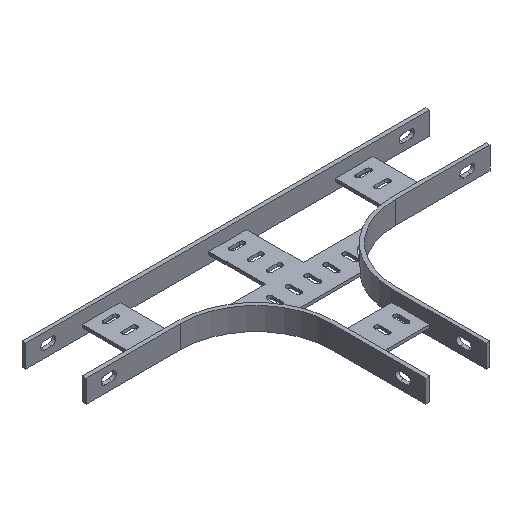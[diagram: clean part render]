
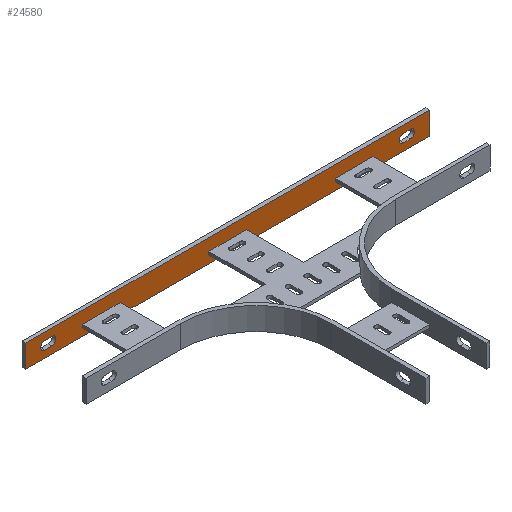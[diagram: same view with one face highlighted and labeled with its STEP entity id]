
A CAD part, isometric view. The second image highlights one B-rep face of the part: STEP entity #24580.
In plain terms, the highlighted planar face has unit normal (0, -1, 0).
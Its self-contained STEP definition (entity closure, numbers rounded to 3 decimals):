
#17660=CARTESIAN_POINT('',(0.,180.,-20.));
#17670=VERTEX_POINT('',#17660);
#17750=CARTESIAN_POINT('',(50.,180.,-20.));
#17760=VERTEX_POINT('',#17750);
#17790=CARTESIAN_POINT('',(0.,180.,-20.));
#17800=DIRECTION('',(-1.,0.,0.));
#17810=VECTOR('',#17800,1.);
#17820=LINE('',#17790,#17810);
#17830=EDGE_CURVE('',#17760,#17670,#17820,.T.);
#19050=CARTESIAN_POINT('',(0.,180.,-16.));
#19060=VERTEX_POINT('',#19050);
#19110=CARTESIAN_POINT('',(0.,180.,0.));
#19120=DIRECTION('',(0.,0.,1.));
#19130=VECTOR('',#19120,1.);
#19140=LINE('',#19110,#19130);
#19150=EDGE_CURVE('',#17670,#19060,#19140,.T.);
#19290=CARTESIAN_POINT('',(50.,180.,-16.));
#19300=VERTEX_POINT('',#19290);
#19350=CARTESIAN_POINT('',(0.,180.,-16.));
#19360=DIRECTION('',(1.,0.,0.));
#19370=VECTOR('',#19360,1.);
#19380=LINE('',#19350,#19370);
#19390=EDGE_CURVE('',#19060,#19300,#19380,.T.);
#20600=CARTESIAN_POINT('',(50.,180.,0.));
#20610=DIRECTION('',(0.,0.,-1.));
#20620=VECTOR('',#20610,1.);
#20630=LINE('',#20600,#20620);
#20640=EDGE_CURVE('',#19300,#17760,#20630,.T.);
#22730=CARTESIAN_POINT('',(125.,180.,0.));
#22740=DIRECTION('',(-0.,1.,0.));
#22750=DIRECTION('',(1.,0.,0.));
#22760=AXIS2_PLACEMENT_3D('',#22730,#22740,#22750);
#22770=PLANE('',#22760);
#22780=CARTESIAN_POINT('',(125.,180.,0.));
#22790=DIRECTION('',(-1.,0.,0.));
#22800=VECTOR('',#22790,1.);
#22810=LINE('',#22780,#22800);
#22820=CARTESIAN_POINT('',(125.,180.,0.));
#22830=VERTEX_POINT('',#22820);
#22840=CARTESIAN_POINT('',(-410.,180.,0.));
#22850=VERTEX_POINT('',#22840);
#22860=EDGE_CURVE('',#22830,#22850,#22810,.T.);
#22870=ORIENTED_EDGE('',*,*,#22860,.T.);
#22880=CARTESIAN_POINT('',(125.,180.,0.));
#22890=DIRECTION('',(0.,0.,-1.));
#22900=VECTOR('',#22890,1.);
#22910=LINE('',#22880,#22900);
#22920=CARTESIAN_POINT('',(125.,180.,-30.));
#22930=VERTEX_POINT('',#22920);
#22940=EDGE_CURVE('',#22830,#22930,#22910,.T.);
#22950=ORIENTED_EDGE('',*,*,#22940,.F.);
#22960=CARTESIAN_POINT('',(125.,180.,-30.));
#22970=DIRECTION('',(-1.,0.,0.));
#22980=VECTOR('',#22970,1.);
#22990=LINE('',#22960,#22980);
#23000=CARTESIAN_POINT('',(-410.,180.,-30.));
#23010=VERTEX_POINT('',#23000);
#23020=EDGE_CURVE('',#22930,#23010,#22990,.T.);
#23030=ORIENTED_EDGE('',*,*,#23020,.F.);
#23040=CARTESIAN_POINT('',(-410.,180.,0.));
#23050=DIRECTION('',(0.,0.,-1.));
#23060=VECTOR('',#23050,1.);
#23070=LINE('',#23040,#23060);
#23080=EDGE_CURVE('',#22850,#23010,#23070,.T.);
#23090=ORIENTED_EDGE('',*,*,#23080,.T.);
#23100=EDGE_LOOP('',(#23090,#23030,#22950,#22870));
#23110=FACE_OUTER_BOUND('',#23100,.T.);
#23120=CARTESIAN_POINT('',(-375.5,180.,-15.));
#23130=DIRECTION('',(0.,-1.,0.));
#23140=DIRECTION('',(-1.,0.,0.));
#23150=AXIS2_PLACEMENT_3D('',#23120,#23130,#23140);
#23160=CIRCLE('',#23150,5.5);
#23170=CARTESIAN_POINT('',(-375.5,180.,-20.5));
#23180=VERTEX_POINT('',#23170);
#23190=CARTESIAN_POINT('',(-375.5,180.,-9.5));
#23200=VERTEX_POINT('',#23190);
#23210=EDGE_CURVE('',#23180,#23200,#23160,.T.);
#23220=ORIENTED_EDGE('',*,*,#23210,.F.);
#23230=CARTESIAN_POINT('',(-210.754,180.,-9.5));
#23240=DIRECTION('',(1.,0.,0.));
#23250=VECTOR('',#23240,1.);
#23260=LINE('',#23230,#23250);
#23270=CARTESIAN_POINT('',(-384.5,180.,-9.5));
#23280=VERTEX_POINT('',#23270);
#23290=EDGE_CURVE('',#23280,#23200,#23260,.T.);
#23300=ORIENTED_EDGE('',*,*,#23290,.T.);
#23310=CARTESIAN_POINT('',(-384.5,180.,-15.));
#23320=DIRECTION('',(0.,1.,0.));
#23330=DIRECTION('',(-1.,0.,0.));
#23340=AXIS2_PLACEMENT_3D('',#23310,#23320,#23330);
#23350=CIRCLE('',#23340,5.5);
#23360=CARTESIAN_POINT('',(-384.5,180.,-20.5));
#23370=VERTEX_POINT('',#23360);
#23380=EDGE_CURVE('',#23370,#23280,#23350,.T.);
#23390=ORIENTED_EDGE('',*,*,#23380,.T.);
#23400=CARTESIAN_POINT('',(-210.754,180.,-20.5));
#23410=DIRECTION('',(-1.,0.,0.));
#23420=VECTOR('',#23410,1.);
#23430=LINE('',#23400,#23420);
#23440=EDGE_CURVE('',#23180,#23370,#23430,.T.);
#23450=ORIENTED_EDGE('',*,*,#23440,.T.);
#23460=EDGE_LOOP('',(#23450,#23390,#23300,#23220));
#23470=FACE_BOUND('',#23460,.T.);
#23480=CARTESIAN_POINT('',(99.5,180.,-15.));
#23490=DIRECTION('',(0.,1.,0.));
#23500=DIRECTION('',(1.,0.,0.));
#23510=AXIS2_PLACEMENT_3D('',#23480,#23490,#23500);
#23520=CIRCLE('',#23510,5.5);
#23530=CARTESIAN_POINT('',(99.5,180.,-9.5));
#23540=VERTEX_POINT('',#23530);
#23550=CARTESIAN_POINT('',(99.5,180.,-20.5));
#23560=VERTEX_POINT('',#23550);
#23570=EDGE_CURVE('',#23540,#23560,#23520,.T.);
#23580=ORIENTED_EDGE('',*,*,#23570,.T.);
#23590=CARTESIAN_POINT('',(-210.754,180.,-9.5));
#23600=DIRECTION('',(1.,0.,0.));
#23610=VECTOR('',#23600,1.);
#23620=LINE('',#23590,#23610);
#23630=CARTESIAN_POINT('',(90.5,180.,-9.5));
#23640=VERTEX_POINT('',#23630);
#23650=EDGE_CURVE('',#23640,#23540,#23620,.T.);
#23660=ORIENTED_EDGE('',*,*,#23650,.T.);
#23670=CARTESIAN_POINT('',(90.5,180.,-15.));
#23680=DIRECTION('',(0.,-1.,0.));
#23690=DIRECTION('',(1.,0.,0.));
#23700=AXIS2_PLACEMENT_3D('',#23670,#23680,#23690);
#23710=CIRCLE('',#23700,5.5);
#23720=CARTESIAN_POINT('',(90.5,180.,-20.5));
#23730=VERTEX_POINT('',#23720);
#23740=EDGE_CURVE('',#23640,#23730,#23710,.T.);
#23750=ORIENTED_EDGE('',*,*,#23740,.F.);
#23760=CARTESIAN_POINT('',(-210.754,180.,-20.5));
#23770=DIRECTION('',(-1.,0.,0.));
#23780=VECTOR('',#23770,1.);
#23790=LINE('',#23760,#23780);
#23800=EDGE_CURVE('',#23560,#23730,#23790,.T.);
#23810=ORIENTED_EDGE('',*,*,#23800,.T.);
#23820=EDGE_LOOP('',(#23810,#23750,#23660,#23580));
#23830=FACE_BOUND('',#23820,.T.);
#23840=CARTESIAN_POINT('',(0.,180.,-16.));
#23850=DIRECTION('',(1.,0.,0.));
#23860=VECTOR('',#23850,1.);
#23870=LINE('',#23840,#23860);
#23880=CARTESIAN_POINT('',(-167.5,180.,-16.));
#23890=VERTEX_POINT('',#23880);
#23900=CARTESIAN_POINT('',(-117.5,180.,-16.));
#23910=VERTEX_POINT('',#23900);
#23920=EDGE_CURVE('',#23890,#23910,#23870,.T.);
#23930=ORIENTED_EDGE('',*,*,#23920,.T.);
#23940=CARTESIAN_POINT('',(-167.5,180.,0.));
#23950=DIRECTION('',(0.,0.,1.));
#23960=VECTOR('',#23950,1.);
#23970=LINE('',#23940,#23960);
#23980=CARTESIAN_POINT('',(-167.5,180.,-20.));
#23990=VERTEX_POINT('',#23980);
#24000=EDGE_CURVE('',#23990,#23890,#23970,.T.);
#24010=ORIENTED_EDGE('',*,*,#24000,.T.);
#24020=CARTESIAN_POINT('',(0.,180.,-20.));
#24030=DIRECTION('',(-1.,0.,0.));
#24040=VECTOR('',#24030,1.);
#24050=LINE('',#24020,#24040);
#24060=CARTESIAN_POINT('',(-117.5,180.,-20.));
#24070=VERTEX_POINT('',#24060);
#24080=EDGE_CURVE('',#24070,#23990,#24050,.T.);
#24090=ORIENTED_EDGE('',*,*,#24080,.T.);
#24100=CARTESIAN_POINT('',(-117.5,180.,0.));
#24110=DIRECTION('',(0.,0.,-1.));
#24120=VECTOR('',#24110,1.);
#24130=LINE('',#24100,#24120);
#24140=EDGE_CURVE('',#23910,#24070,#24130,.T.);
#24150=ORIENTED_EDGE('',*,*,#24140,.T.);
#24160=EDGE_LOOP('',(#24150,#24090,#24010,#23930));
#24170=FACE_BOUND('',#24160,.T.);
#24180=ORIENTED_EDGE('',*,*,#19390,.T.);
#24190=ORIENTED_EDGE('',*,*,#19150,.T.);
#24200=ORIENTED_EDGE('',*,*,#17830,.T.);
#24210=ORIENTED_EDGE('',*,*,#20640,.T.);
#24220=EDGE_LOOP('',(#24210,#24200,#24190,#24180));
#24230=FACE_BOUND('',#24220,.T.);
#24240=CARTESIAN_POINT('',(0.,180.,-16.));
#24250=DIRECTION('',(1.,0.,0.));
#24260=VECTOR('',#24250,1.);
#24270=LINE('',#24240,#24260);
#24280=CARTESIAN_POINT('',(-335.,180.,-16.));
#24290=VERTEX_POINT('',#24280);
#24300=CARTESIAN_POINT('',(-285.,180.,-16.));
#24310=VERTEX_POINT('',#24300);
#24320=EDGE_CURVE('',#24290,#24310,#24270,.T.);
#24330=ORIENTED_EDGE('',*,*,#24320,.T.);
#24340=CARTESIAN_POINT('',(-335.,180.,0.));
#24350=DIRECTION('',(0.,0.,1.));
#24360=VECTOR('',#24350,1.);
#24370=LINE('',#24340,#24360);
#24380=CARTESIAN_POINT('',(-335.,180.,-20.));
#24390=VERTEX_POINT('',#24380);
#24400=EDGE_CURVE('',#24390,#24290,#24370,.T.);
#24410=ORIENTED_EDGE('',*,*,#24400,.T.);
#24420=CARTESIAN_POINT('',(0.,180.,-20.));
#24430=DIRECTION('',(-1.,0.,0.));
#24440=VECTOR('',#24430,1.);
#24450=LINE('',#24420,#24440);
#24460=CARTESIAN_POINT('',(-285.,180.,-20.));
#24470=VERTEX_POINT('',#24460);
#24480=EDGE_CURVE('',#24470,#24390,#24450,.T.);
#24490=ORIENTED_EDGE('',*,*,#24480,.T.);
#24500=CARTESIAN_POINT('',(-285.,180.,0.));
#24510=DIRECTION('',(0.,0.,-1.));
#24520=VECTOR('',#24510,1.);
#24530=LINE('',#24500,#24520);
#24540=EDGE_CURVE('',#24310,#24470,#24530,.T.);
#24550=ORIENTED_EDGE('',*,*,#24540,.T.);
#24560=EDGE_LOOP('',(#24550,#24490,#24410,#24330));
#24570=FACE_BOUND('',#24560,.T.);
#24580=ADVANCED_FACE('',(#23110,#23470,#23830,#24170,#24230,#24570),
#22770,.F.);
